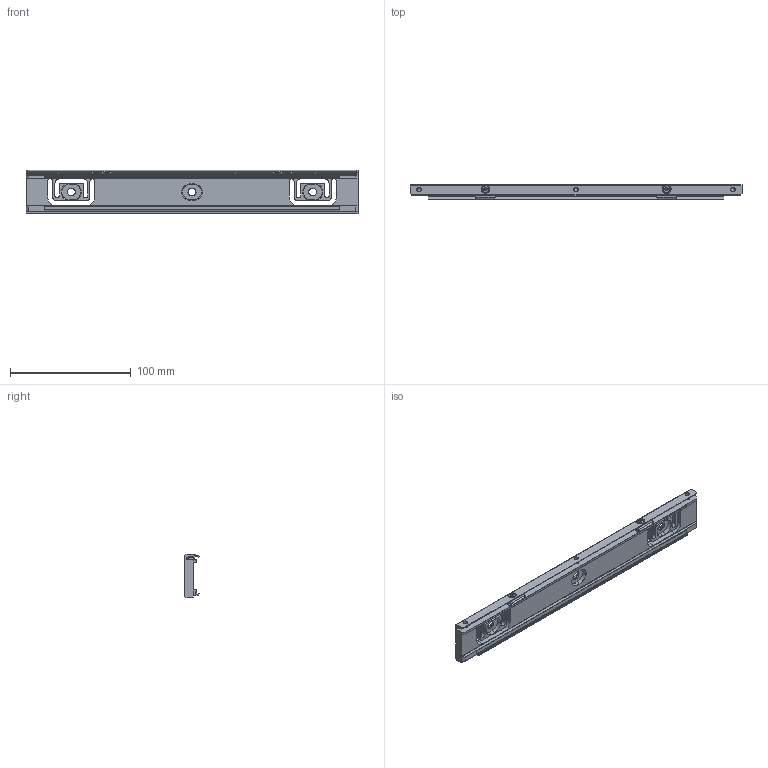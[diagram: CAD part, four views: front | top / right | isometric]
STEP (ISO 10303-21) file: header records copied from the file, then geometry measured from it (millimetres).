
FILE_DESCRIPTION(('Creo Elements/Direct Modeling STEP Export'),'2;1');
FILE_NAME('B3-170.stp','2020-10-30T11:36:45',(''),(''),'Creo Elements/Direct Modeling STEP processor for AP214 (Solid Model)','Creo Elements/Direct Modeling 19.0G 27-Nov-2017 (C) Parametric Technology GmbH','');
FILE_SCHEMA(('AUTOMOTIVE_DESIGN { 1 0 10303 214 1 1 1 1 }'));
Length unit declared in the file: millimetre
Products named in the file (2): PERFIL_SOPORTE_MECANIZADO_REGLA_SV3-170
Assembly tree (1 placements, depth 2):
  PERFIL_SOPORTE_MECANIZADO_REGLA_SV3-170
    PERFIL_SOPORTE_MECANIZADO_REGLA_SV3-170
Bounding box: 275 x 12.14 x 36.1 mm (x, y, z)
Volume: 61917.8 mm3; surface area: 36405 mm2
Topology: 1 solids, 1 shells, 571 faces, 1669 edges, 1091 vertices
Faces by surface type: plane 307, cylinder 200, cone 48, bspline 8, torus 8
Entity records: 20414 total; most frequent: CARTESIAN_POINT 4326, ORIENTED_EDGE 3314, DIRECTION 2766, EDGE_CURVE 1657, VERTEX_POINT 1091, VECTOR 956, LINE 956, AXIS2_PLACEMENT_3D 905
